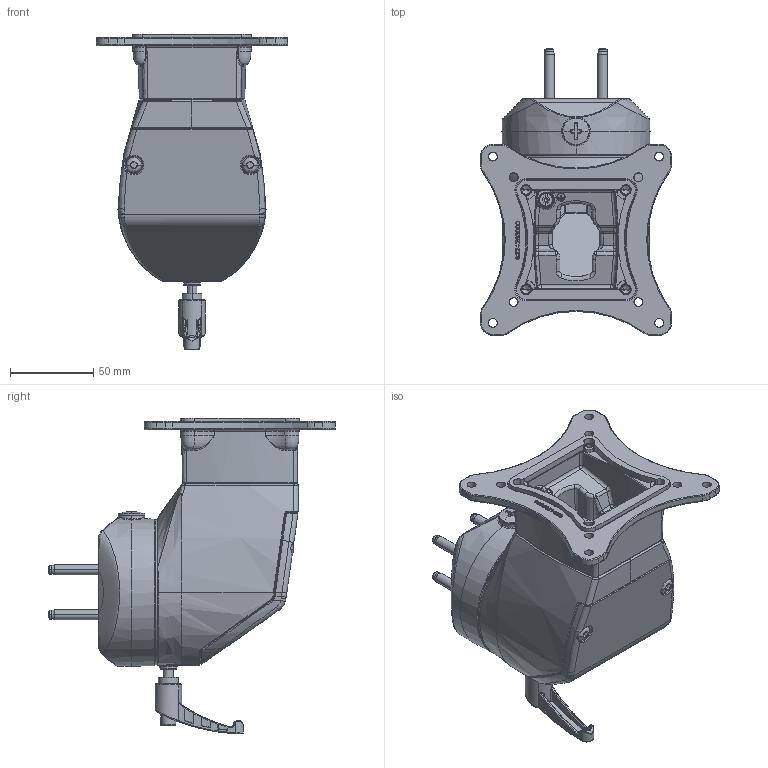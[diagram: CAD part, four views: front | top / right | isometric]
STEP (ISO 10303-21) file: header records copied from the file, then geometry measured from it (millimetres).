
FILE_DESCRIPTION((''),'2;1');
FILE_NAME('1015500010_ASM','2024-03-20T14:29:44',('dirk.bredemeier'),(''),'CREO PARAMETRIC BY PTC INC, 2022124','CREO PARAMETRIC BY PTC INC, 2022124','');
FILE_SCHEMA(('AUTOMOTIVE_DESIGN { 1 0 10303 214 1 1 1 1 }'));
Products named in the file (29): 9324253000_AF0; 9261441000; 9620501000_ASM; 9641000001_ASM; 9371087000; 9324258000_AF0; 9620506000_ASM; 9641000006_ASM; 9231840000_AF2; 9411111000_VG00290; 9371088000; 9502395000; 9263051000; 9432510000; 9231841000; 9324263000_AF0; 9620511000_ASM; 9641000011_ASM; 9261635000; 9324259000_AF0; 9620507000_ASM; 9641000007_DICHTUNG; 9641000007_ASM; 9261654000; 9222005000; 9251096000; 9261655000; 9231843000; 1015500010_ASM
Assembly tree (39 placements, depth 4):
  1015500010_ASM
    9641000001_ASM
      9620501000_ASM
        9324253000_AF0
        9261441000
    9371087000
    9641000006_ASM
      9620506000_ASM
        9324258000_AF0
        9261441000
    9231840000_AF2
    9411111000_VG00290
    9371088000
    9502395000
    9263051000
    9432510000
    9231841000  x2
    9641000011_ASM
      9620511000_ASM
        9324263000_AF0
        9261441000
    9261635000  x4
    9641000007_ASM
      9620507000_ASM
        9324259000_AF0
        9261441000
      9641000007_DICHTUNG
    9261654000  x2
    9222005000
    9251096000
    9261655000  x4
    9231843000
Bounding box: 114.96 x 172.53 x 189.86 mm (x, y, z)
Volume: 539353 mm3; surface area: 209807.3 mm2
Topology: 31 solids, 31 shells, 4980 faces, 12681 edges, 7862 vertices
Faces by surface type: plane 2311, bspline 1209, cylinder 600, cone 430, torus 367, sphere 43, revolution 12, extrusion 8
Entity records: 260229 total; most frequent: CARTESIAN_POINT 95242, ORIENTED_EDGE 23006, DIRECTION 18446, PRESENTATION_STYLE_ASSIGNMENT 15377, STYLED_ITEM 15297, CURVE_STYLE 11523, EDGE_CURVE 11503, VERTEX_POINT 7128
